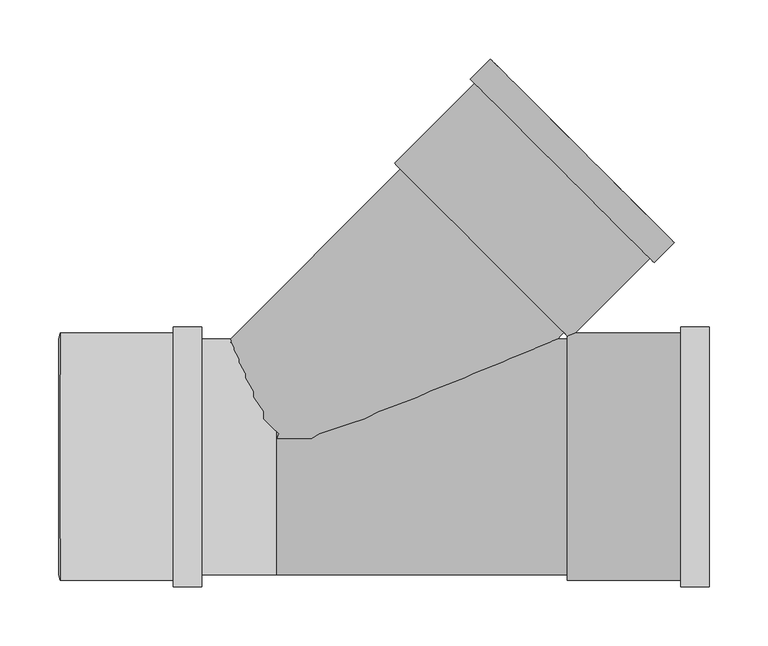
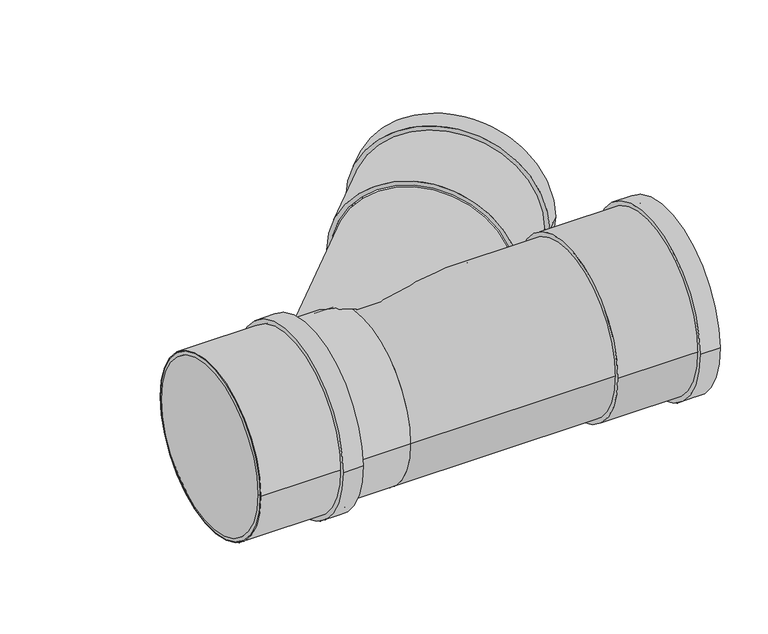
"""IFC4 building model written with IfcOpenShell, lengths in millimetres: pipe fitting geometry, Superdrain SKEA Branch : Superdrain SKEA Branch."""

from ifc_helpers import new_model, si_unit, point, frame, origin, origin_2d, place, context, project, spatial, polyline, circle_curve, ellipse_curve, trimmed, segment, composite_curve, outline, extrude, source, transform, mapped, element, save
from ifc_brep_helpers import plane_surface, cylinder_surface, revolved_surface, advanced_brep


def pipe_fitting_7535d88b(model_context):
    return source(origin(), model_context, "Body", "SolidModel", [
        extrude(outline(composite_curve([segment(trimmed(circle_curve(origin_2d(), 105.0), [point((105.0, 0.0))], [point((-105.0, 0.0))], False, "CARTESIAN"), True, "CONTINUOUS"), segment(trimmed(circle_curve(origin_2d(), 105.0), [point((-105.0, 0.0))], [point((105.0, 0.0))], False, "CARTESIAN"), True, "CONTINUOUS")], self_intersect=False), holes=[composite_curve([segment(trimmed(circle_curve(origin_2d(), 100.0), [point((100.0, 0.0))], [point((-100.0, 0.0))], True, "CARTESIAN"), True, "CONTINUOUS"), segment(trimmed(circle_curve(origin_2d(), 100.0), [point((-100.0, 0.0))], [point((100.0, 0.0))], True, "CARTESIAN"), True, "CONTINUOUS")], self_intersect=False)]), frame((-183.0, 0.0, 0.0), z_axis=(1.0, 0.0, 0.0), x_axis=(0.0, 1.0, 0.0)), (0.0, 0.0, 1.0), 120.0),
        extrude(outline(composite_curve([segment(trimmed(circle_curve(origin_2d(), 110.25), [point((110.25, 0.0))], [point((-110.25, 0.0))], False, "CARTESIAN"), True, "CONTINUOUS"), segment(trimmed(circle_curve(origin_2d(), 110.25), [point((-110.25, 0.0))], [point((110.25, 0.0))], False, "CARTESIAN"), True, "CONTINUOUS")], self_intersect=False), holes=[composite_curve([segment(trimmed(circle_curve(origin_2d(), 100.0), [point((100.0, 0.0))], [point((-100.0, 0.0))], True, "CARTESIAN"), True, "CONTINUOUS"), segment(trimmed(circle_curve(origin_2d(), 100.0), [point((-100.0, 0.0))], [point((100.0, 0.0))], True, "CARTESIAN"), True, "CONTINUOUS")], self_intersect=False)]), frame((-87.0, 0.0, 0.0), z_axis=(1.0, 0.0, 0.0), x_axis=(0.0, 1.0, 0.0)), (0.0, 0.0, 1.0), 24.0),
        advanced_brep(
        [(-184.0, 100.0, 0.0), (-184.0, -100.0, 0.0), (-183.0, 105.0, 0.0), (-183.0, -105.0, 0.0)],
        [
            (0, 1, circle_curve(frame((-184.0, 0.0, 0.0), z_axis=(-1.0, 0.0, 0.0), x_axis=(0.0, 1.0, 0.0)), 100.0)),
            (1, 0, circle_curve(frame((-184.0, 0.0, 0.0), z_axis=(-1.0, 0.0, 0.0), x_axis=(0.0, -1.0, 0.0)), 100.0)),
            (2, 3, circle_curve(frame((-183.0, 0.0, 0.0), z_axis=(1.0, 0.0, 0.0), x_axis=(0.0, -1.0, 0.0)), 105.0)),
            (3, 2, circle_curve(frame((-183.0, 0.0, 0.0), z_axis=(1.0, 0.0, 0.0), x_axis=(0.0, 1.0, 0.0)), 105.0)),
            (3, 1),
            (0, 2),
        ],
        [
            plane_surface(frame((-184.0, 0.0, 0.0), z_axis=(-1.0, 0.0, 0.0), x_axis=(0.0, 0.0, -1.0))),
            plane_surface(frame((-183.0, 0.0, 0.0), z_axis=(1.0, 0.0, 0.0), x_axis=(0.0, 0.0, -1.0))),
            revolved_surface(polyline([(-184.0, 100.0, 0.0), (-183.0, 105.0, 0.0)]), (-204.0, 0.0, 0.0), (1.0, 0.0, 0.0)),
            revolved_surface(polyline([(-184.0, -100.0, 0.0), (-183.0, -105.0, 0.0)]), (-204.0, 0.0, 0.0), (1.0, 0.0, 0.0)),
        ],
        [
            (0, [[1, 2]]),
            (1, [[3, 4]]),
            (2, [[-4, 5, -1, 6]]),
            (3, [[-3, -6, -2, -5]]),
        ],
    ),
        advanced_brep(
        [(243.9518395, 105.3589104, 0.0), (105.3589104, 243.9518395, 0.0), (-40.5929291, 98.0, 0.0), (0.0, 0.0, 98.0), (236.5929291, 98.0, 0.0), (0.0, 0.0, -98.0)],
        [
            (0, 1, circle_curve(frame((174.655375, 174.655375, 0.0), z_axis=(0.7071067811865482, 0.7071067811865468, 0.0), x_axis=(-0.7071067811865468, 0.7071067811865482, 0.0)), 98.0)),
            (1, 0, circle_curve(frame((174.655375, 174.655375, 0.0), z_axis=(0.7071067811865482, 0.7071067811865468, 0.0), x_axis=(-0.7071067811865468, 0.7071067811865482, 0.0)), 98.0)),
            (1, 2),
            (2, 3, ellipse_curve(frame((0.0, 0.0, 0.0), z_axis=(0.9238795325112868, 0.3826834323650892, 0.0), x_axis=(0.3826834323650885, -0.9238795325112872, 0.0)), 106.0744356, 98.0)),
            (3, 4, ellipse_curve(frame((0.0, 0.0, 0.0), z_axis=(-0.3826834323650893, 0.923879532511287, 0.0), x_axis=(-0.9238795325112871, -0.3826834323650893, 0.0)), 256.0863411, 98.0)),
            (4, 0),
            (4, 5, ellipse_curve(frame((0.0, 0.0, 0.0), z_axis=(-0.3826834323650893, 0.923879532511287, 0.0), x_axis=(-0.9238795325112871, -0.3826834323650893, 0.0)), 256.0863411, 98.0)),
            (5, 2, ellipse_curve(frame((0.0, 0.0, 0.0), z_axis=(0.9238795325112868, 0.3826834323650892, 0.0), x_axis=(0.3826834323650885, -0.9238795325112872, 0.0)), 106.0744356, 98.0)),
            (2, 4),
        ],
        [
            plane_surface(frame((174.655375, 174.655375, 0.0), z_axis=(0.7071067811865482, 0.7071067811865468, 0.0), x_axis=(0.0, 0.0, 1.0))),
            cylinder_surface(frame((0.0, 0.0, 0.0), z_axis=(-0.7071067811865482, -0.7071067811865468, 0.0), x_axis=(-0.7071067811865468, 0.7071067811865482, 0.0)), 98.0),
            revolved_surface(polyline([(-236.59292909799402, 98.0, 0.0), (236.5929291, 98.0, 0.0)]), (-188.0, 0.0, 0.0), (-1.0, 0.0, 0.0)),
        ],
        [
            (0, [[1, 2]]),
            (1, [[-2, 3, 4, 5, 6]]),
            (1, [[-1, -6, 7, 8, -3]]),
            (2, [[9, -5, -4]]),
            (2, [[-9, -8, -7]]),
        ],
    ),
        advanced_brep(
        [(247.0, -105.0, 0.0), (247.0, 105.0, 0.0), (367.0, -105.0, 0.0), (367.0, 105.0, 0.0), (367.0, -100.0, 0.0), (367.0, 100.0, 0.0), (248.0, -100.0, 0.0), (248.0, 100.0, 0.0)],
        [
            (0, 1, circle_curve(frame((247.0, 0.0, 0.0), z_axis=(-1.0, 0.0, 0.0), x_axis=(0.0, 1.0, 0.0)), 105.0)),
            (1, 0, circle_curve(frame((247.0, 0.0, 0.0), z_axis=(-1.0, 0.0, 0.0), x_axis=(0.0, 1.0, 0.0)), 105.0)),
            (2, 3, circle_curve(frame((367.0, 0.0, 0.0), z_axis=(1.0, 0.0, 0.0), x_axis=(0.0, 1.0, 0.0)), 105.0)),
            (3, 2, circle_curve(frame((367.0, 0.0, 0.0), z_axis=(1.0, 0.0, 0.0), x_axis=(0.0, 1.0, 0.0)), 105.0)),
            (4, 5, circle_curve(frame((367.0, 0.0, 0.0), z_axis=(-1.0, 0.0, 0.0), x_axis=(0.0, 1.0, 0.0)), 100.0)),
            (5, 4, circle_curve(frame((367.0, 0.0, 0.0), z_axis=(-1.0, 0.0, 0.0), x_axis=(0.0, 1.0, 0.0)), 100.0)),
            (0, 2),
            (3, 1),
            (6, 7, circle_curve(frame((248.0, 0.0, 0.0), z_axis=(-1.0, 0.0, 0.0), x_axis=(0.0, 1.0, 0.0)), 100.0)),
            (7, 5),
            (4, 6),
            (7, 6, circle_curve(frame((248.0, 0.0, 0.0), z_axis=(-1.0, 0.0, 0.0), x_axis=(0.0, 1.0, 0.0)), 100.0)),
        ],
        [
            plane_surface(frame((247.0, 0.0, 0.0), z_axis=(-1.0, 0.0, 0.0), x_axis=(0.0, 0.0, 1.0))),
            plane_surface(frame((367.0, 0.0, 0.0), z_axis=(1.0, 0.0, 0.0), x_axis=(0.0, 0.0, 1.0))),
            cylinder_surface(frame((247.0, 0.0, 0.0), z_axis=(-1.0, 0.0, 0.0), x_axis=(0.0, 1.0, 0.0)), 105.0),
            revolved_surface(polyline([(248.0, 100.0, 0.0), (367.0, 100.0, 0.0)]), (248.0, 0.0, 0.0), (-1.0, 0.0, 0.0)),
            plane_surface(frame((248.0, 0.0, 0.0), z_axis=(1.0, 0.0, 0.0), x_axis=(0.0, 0.0, 1.0))),
        ],
        [
            (0, [[1, 2]]),
            (1, [[3, 4], [5, 6]]),
            (2, [[-1, 7, -4, 8]]),
            (2, [[-2, -8, -3, -7]]),
            (3, [[9, 10, -5, 11]]),
            (3, [[12, -11, -6, -10]]),
            (4, [[-12, -9]]),
        ],
    ),
        extrude(outline(composite_curve([segment(trimmed(circle_curve(origin_2d(), 110.25), [point((110.25, 0.0))], [point((-110.25, 0.0))], False, "CARTESIAN"), True, "CONTINUOUS"), segment(trimmed(circle_curve(origin_2d(), 110.25), [point((-110.25, 0.0))], [point((110.25, 0.0))], False, "CARTESIAN"), True, "CONTINUOUS")], self_intersect=False), holes=[composite_curve([segment(trimmed(circle_curve(origin_2d(), 100.0), [point((100.0, 0.0))], [point((-100.0, 0.0))], True, "CARTESIAN"), True, "CONTINUOUS"), segment(trimmed(circle_curve(origin_2d(), 100.0), [point((-100.0, 0.0))], [point((100.0, 0.0))], True, "CARTESIAN"), True, "CONTINUOUS")], self_intersect=False)]), frame((343.0, 0.0, 0.0), z_axis=(1.0, 0.0, 0.0), x_axis=(0.0, 1.0, 0.0)), (0.0, 0.0, 1.0), 24.0),
        extrude(outline(composite_curve([segment(trimmed(circle_curve(origin_2d(), 100.0), [point((100.0, 0.0))], [point((-100.0, 0.0))], False, "CARTESIAN"), True, "CONTINUOUS"), segment(trimmed(circle_curve(origin_2d(), 100.0), [point((-100.0, 0.0))], [point((100.0, 0.0))], False, "CARTESIAN"), True, "CONTINUOUS")], self_intersect=False)), frame((-183.0, 0.0, 0.0), z_axis=(1.0, 0.0, 0.0), x_axis=(0.0, 1.0, 0.0)), (0.0, 0.0, 1.0), 183.0),
        extrude(outline(composite_curve([segment(trimmed(circle_curve(origin_2d(), 100.0), [point((-100.0, 0.0))], [point((100.0, 0.0))], False, "CARTESIAN"), True, "CONTINUOUS"), segment(trimmed(circle_curve(origin_2d(), 100.0), [point((100.0, 0.0))], [point((-100.0, 0.0))], False, "CARTESIAN"), True, "CONTINUOUS")], self_intersect=False)), frame((0.0, 0.0, 0.0), z_axis=(1.0, 0.0, 0.0), x_axis=(0.0, 1.0, 0.0)), (0.0, 0.0, 1.0), 247.0),
        extrude(outline(composite_curve([segment(trimmed(circle_curve(origin_2d(), 110.25), [point((0.0, 110.25))], [point((0.0, -110.25))], False, "CARTESIAN"), True, "CONTINUOUS"), segment(trimmed(circle_curve(origin_2d(), 110.25), [point((0.0, -110.25))], [point((0.0, 110.25))], False, "CARTESIAN"), True, "CONTINUOUS")], self_intersect=False), holes=[composite_curve([segment(trimmed(circle_curve(origin_2d(), 100.0), [point((0.0, 100.0))], [point((0.0, -100.0))], True, "CARTESIAN"), True, "CONTINUOUS"), segment(trimmed(circle_curve(origin_2d(), 100.0), [point((0.0, -100.0))], [point((0.0, 100.0))], True, "CARTESIAN"), True, "CONTINUOUS")], self_intersect=False)]), frame((242.5376259, 242.5376259, 0.0), z_axis=(0.7071067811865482, 0.7071067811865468, 0.0), x_axis=(0.0, 0.0, 1.0)), (0.0, 0.0, 1.0), 24.0),
        extrude(outline(composite_curve([segment(trimmed(circle_curve(origin_2d(), 105.0), [point((0.0, 105.0))], [point((0.0, -105.0))], False, "CARTESIAN"), True, "CONTINUOUS"), segment(trimmed(circle_curve(origin_2d(), 105.0), [point((0.0, -105.0))], [point((0.0, 105.0))], False, "CARTESIAN"), True, "CONTINUOUS")], self_intersect=False), holes=[composite_curve([segment(trimmed(circle_curve(origin_2d(), 100.0), [point((0.0, 100.0))], [point((0.0, -100.0))], True, "CARTESIAN"), True, "CONTINUOUS"), segment(trimmed(circle_curve(origin_2d(), 100.0), [point((0.0, -100.0))], [point((0.0, 100.0))], True, "CARTESIAN"), True, "CONTINUOUS")], self_intersect=False)]), frame((174.655375, 174.655375, 0.0), z_axis=(0.7071067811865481, 0.707106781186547, 0.0), x_axis=(0.0, 0.0, 1.0)), (0.0, 0.0, 1.0), 120.0),
    ])


if __name__ == "__main__":
    model = new_model("IFC4")
    model_context = context("Model", 3, world=origin())
    ifc_project = project(units=[si_unit("LENGTHUNIT", "METRE", prefix="MILLI")], contexts=[model_context])
    site = spatial("IfcSite", under=ifc_project)
    building = spatial("IfcBuilding", under=site)
    placement = place(None, origin())
    pipe_fitting_shape = pipe_fitting_7535d88b(model_context)
    element("IfcPipeFitting", 1, ObjectType="Superdrain SKEA Branch : Superdrain SKEA Branch", at=placement, inside=building, context=model_context, shape_type="MappedRepresentation", body=[
        mapped(pipe_fitting_shape, transform((0.0, 0.0, 0.0), x_axis=(1.0, 0.0, 0.0), y_axis=(0.0, 1.0, 0.0), z_axis=(0.0, 0.0, 1.0))),
    ])
    save(model, "model.ifc")
